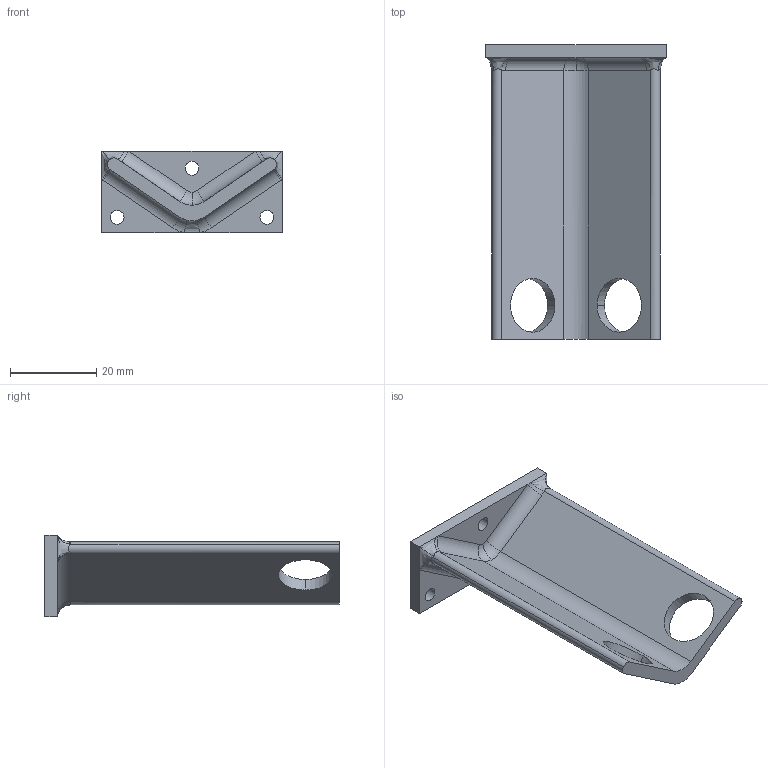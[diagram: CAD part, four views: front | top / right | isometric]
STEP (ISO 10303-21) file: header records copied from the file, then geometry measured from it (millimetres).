
FILE_DESCRIPTION (( 'STEP AP203' ), '1' );
FILE_NAME ('back_fin v2.STEP', '2024-07-13T16:28:52', ( '' ), ( '' ), 'SwSTEP 2.0', 'SolidWorks 2020', '' );
FILE_SCHEMA (( 'CONFIG_CONTROL_DESIGN' ));
Length unit declared in the file: millimetre
Products named in the file (1): back_fin v2
Bounding box: 42 x 68.5 x 19 mm (x, y, z)
Volume: 10859.1 mm3; surface area: 7891.8 mm2
Topology: 1 solids, 1 shells, 45 faces, 113 edges, 70 vertices
Faces by surface type: cylinder 19, plane 13, bspline 7, torus 6
Entity records: 1775 total; most frequent: CARTESIAN_POINT 604, DIRECTION 233, ORIENTED_EDGE 226, EDGE_CURVE 113, AXIS2_PLACEMENT_3D 91, VERTEX_POINT 70, EDGE_LOOP 55, CIRCLE 52
